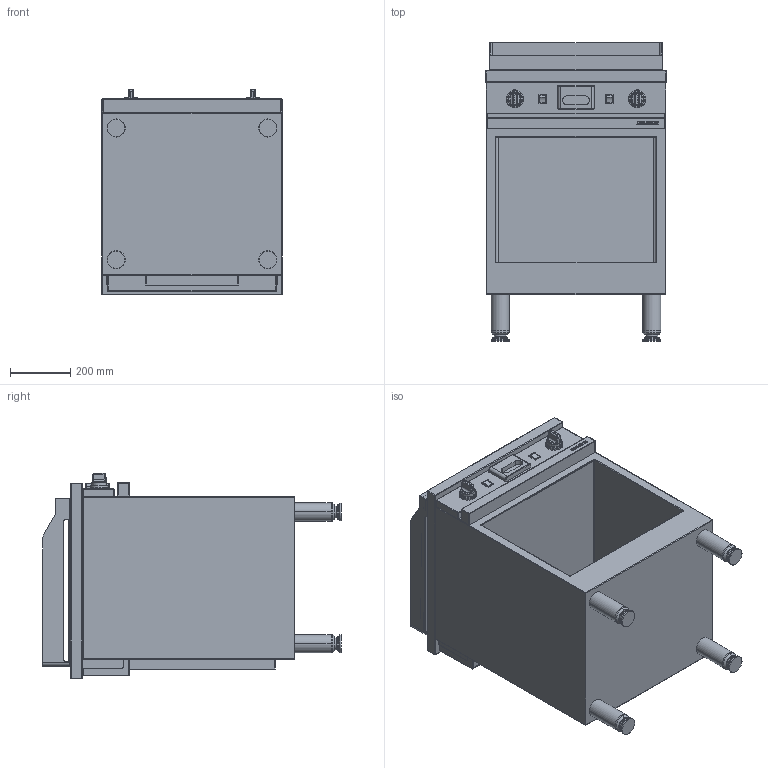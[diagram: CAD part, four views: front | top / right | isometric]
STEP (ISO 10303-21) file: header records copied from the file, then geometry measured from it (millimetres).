
FILE_DESCRIPTION((''),'2;1');
FILE_NAME('CME610SRKC_EXPORT_STEP_ASM','2017-11-22T',('r.avril'),(''),'PRO/ENGINEER BY PARAMETRIC TECHNOLOGY CORPORATION, 2014200','PRO/ENGINEER BY PARAMETRIC TECHNOLOGY CORPORATION, 2014200','');
FILE_SCHEMA(('AP203_CONFIGURATION_CONTROLLED_3D_DESIGN_OF_MECHANICAL_PARTS_AND_ASSEMBLIES_MIM_LF { 1 0 10303 403 2 1 2 }'));
Length unit declared in the file: millimetre
Products named in the file (11): MODULES_AMB_600_EXPORT_STEP; TABLE_610_GRILLADE; TABLE_610_GRILLADE_ASM; TIROIR_GRILLADE_EXPORT_STEP; MANETTE_AMB_EXPORT_STEP; BASCULEUR_AMB_EXPORT_DXF; CEINTURE_PLAQUE_GRILLADE_600; 50289000; 50293100; 65070009_ASM; CME610SRKC_EXPORT_STEP_ASM
Assembly tree (12 placements, depth 3):
  CME610SRKC_EXPORT_STEP_ASM
    MODULES_AMB_600_EXPORT_STEP
    TABLE_610_GRILLADE_ASM
      TABLE_610_GRILLADE
    TIROIR_GRILLADE_EXPORT_STEP
    MANETTE_AMB_EXPORT_STEP  x2
    BASCULEUR_AMB_EXPORT_DXF  x2
    65070009_ASM
      CEINTURE_PLAQUE_GRILLADE_600
      50289000
      50293100
Bounding box: 600 x 992.34 x 682.5 mm (x, y, z)
Volume: 82405194.9 mm3; surface area: 6227626.4 mm2
Topology: 18 solids, 44 shells, 963 faces, 3025 edges, 2374 vertices
Faces by surface type: plane 332, cylinder 289, cone 166, torus 104, sphere 48, bspline 24
Entity records: 40747 total; most frequent: CARTESIAN_POINT 10452, DIRECTION 5014, ORIENTED_EDGE 4752, EDGE_CURVE 2617, VERTEX_POINT 1803, AXIS2_PLACEMENT_3D 1767, VECTOR 1447, LINE 1447
